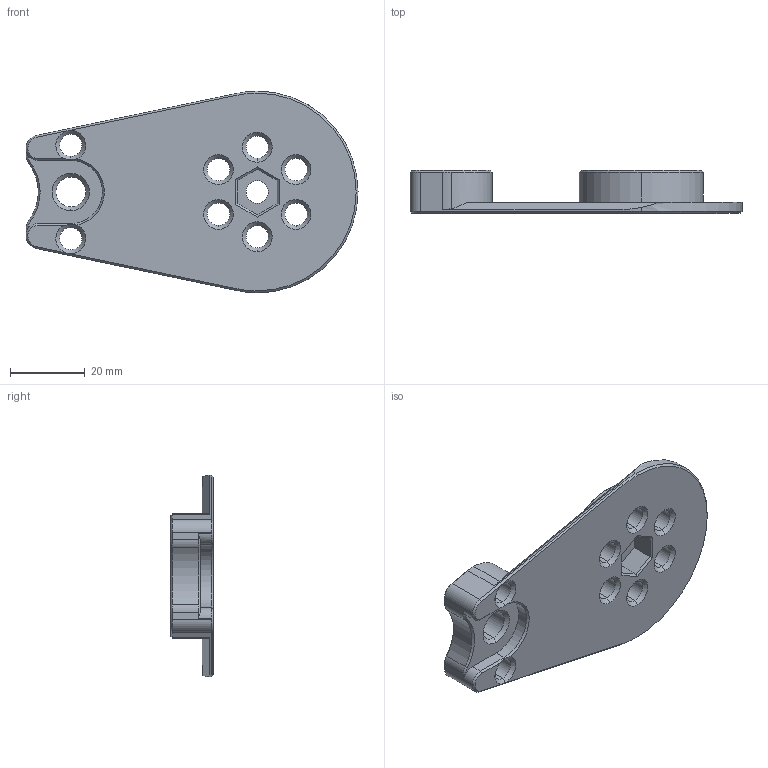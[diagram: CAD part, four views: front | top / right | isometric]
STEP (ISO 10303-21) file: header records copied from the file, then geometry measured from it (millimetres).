
FILE_DESCRIPTION (( 'STEP AP214' ), '1' );
FILE_NAME ('Parametric Entropy Block.STEP', '2026-03-06T10:52:45', ( '' ), ( '' ), 'SwSTEP 2.0', 'SolidWorks 2026', '' );
FILE_SCHEMA (( 'AUTOMOTIVE_DESIGN' ));
Length unit declared in the file: millimetre
Products named in the file (1): Parametric Entropy Block
Bounding box: 89 x 11.5 x 54 mm (x, y, z)
Volume: 18662.1 mm3; surface area: 11259.8 mm2
Topology: 1 solids, 1 shells, 120 faces, 293 edges, 175 vertices
Faces by surface type: plane 42, cone 41, cylinder 37
Entity records: 3551 total; most frequent: CARTESIAN_POINT 637, DIRECTION 632, ORIENTED_EDGE 586, EDGE_CURVE 293, AXIS2_PLACEMENT_3D 234, VERTEX_POINT 175, LINE 164, VECTOR 164
